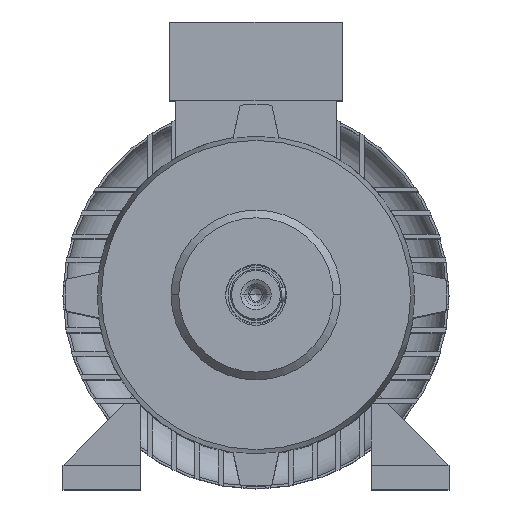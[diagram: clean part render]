
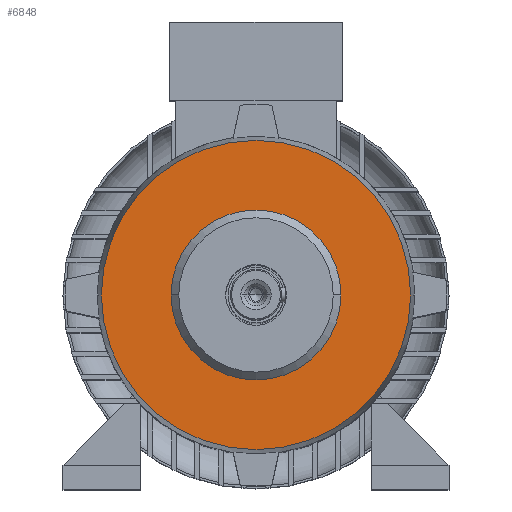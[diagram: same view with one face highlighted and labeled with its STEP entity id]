
A CAD part, top view. The second image highlights one B-rep face of the part: STEP entity #6848.
In plain terms, the highlighted planar face has unit normal (0, 0, 1).
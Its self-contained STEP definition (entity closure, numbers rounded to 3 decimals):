
#327 = EDGE_CURVE ( 'NONE', #9587, #9764, #6070, .T. ) ;
#369 = ORIENTED_EDGE ( 'NONE', *, *, #327, .T. ) ;
#397 = CARTESIAN_POINT ( 'NONE',  ( -70., 0., 222.6 ) ) ;
#586 = AXIS2_PLACEMENT_3D ( 'NONE', #8736, #9837, #3285 ) ;
#1112 = CARTESIAN_POINT ( 'NONE',  ( 0., 0., 222.6 ) ) ;
#1526 = AXIS2_PLACEMENT_3D ( 'NONE', #2645, #8963, #10126 ) ;
#1731 = PLANE ( 'NONE',  #10874 ) ;
#2228 = AXIS2_PLACEMENT_3D ( 'NONE', #9707, #4157, #9754 ) ;
#2513 = CIRCLE ( 'NONE', #11539, 70. ) ;
#2645 = CARTESIAN_POINT ( 'NONE',  ( 0., 0., 222.6 ) ) ;
#3253 = EDGE_LOOP ( 'NONE', ( #11960, #4812 ) ) ;
#3285 = DIRECTION ( 'NONE',  ( -1., 0., 0. ) ) ;
#3346 = CIRCLE ( 'NONE', #2228, 127.419 ) ;
#3393 = FACE_BOUND ( 'NONE', #12385, .T. ) ;
#4157 = DIRECTION ( 'NONE',  ( 0., 0., -1. ) ) ;
#4812 = ORIENTED_EDGE ( 'NONE', *, *, #13094, .F. ) ;
#4982 = CARTESIAN_POINT ( 'NONE',  ( 70., 0., 222.6 ) ) ;
#5597 = ORIENTED_EDGE ( 'NONE', *, *, #9961, .T. ) ;
#6070 = CIRCLE ( 'NONE', #586, 70. ) ;
#6672 = DIRECTION ( 'NONE',  ( -1., 0., 0. ) ) ;
#6848 = ADVANCED_FACE ( 'NONE', ( #12149, #3393 ), #1731, .F. ) ;
#8299 = DIRECTION ( 'NONE',  ( -1., 0., 0. ) ) ;
#8721 = VERTEX_POINT ( 'NONE', #9478 ) ;
#8730 = CARTESIAN_POINT ( 'NONE',  ( -127.419, 0., 222.6 ) ) ;
#8736 = CARTESIAN_POINT ( 'NONE',  ( 0., 0., 222.6 ) ) ;
#8963 = DIRECTION ( 'NONE',  ( 0., 0., -1. ) ) ;
#9478 = CARTESIAN_POINT ( 'NONE',  ( 127.419, 0., 222.6 ) ) ;
#9587 = VERTEX_POINT ( 'NONE', #397 ) ;
#9707 = CARTESIAN_POINT ( 'NONE',  ( 0., 0., 222.6 ) ) ;
#9754 = DIRECTION ( 'NONE',  ( -1., 0., 0. ) ) ;
#9764 = VERTEX_POINT ( 'NONE', #4982 ) ;
#9817 = EDGE_CURVE ( 'NONE', #10547, #8721, #3346, .T. ) ;
#9837 = DIRECTION ( 'NONE',  ( 0., 0., -1. ) ) ;
#9961 = EDGE_CURVE ( 'NONE', #9764, #9587, #2513, .T. ) ;
#10126 = DIRECTION ( 'NONE',  ( -1., 0., 0. ) ) ;
#10547 = VERTEX_POINT ( 'NONE', #8730 ) ;
#10874 = AXIS2_PLACEMENT_3D ( 'NONE', #11591, #11690, #8299 ) ;
#11252 = CIRCLE ( 'NONE', #1526, 127.419 ) ;
#11539 = AXIS2_PLACEMENT_3D ( 'NONE', #1112, #13206, #6672 ) ;
#11591 = CARTESIAN_POINT ( 'NONE',  ( 0., 127.419, 222.6 ) ) ;
#11690 = DIRECTION ( 'NONE',  ( 0., 0., -1. ) ) ;
#11960 = ORIENTED_EDGE ( 'NONE', *, *, #9817, .F. ) ;
#12149 = FACE_OUTER_BOUND ( 'NONE', #3253, .T. ) ;
#12385 = EDGE_LOOP ( 'NONE', ( #369, #5597 ) ) ;
#13094 = EDGE_CURVE ( 'NONE', #8721, #10547, #11252, .T. ) ;
#13206 = DIRECTION ( 'NONE',  ( 0., 0., -1. ) ) ;
